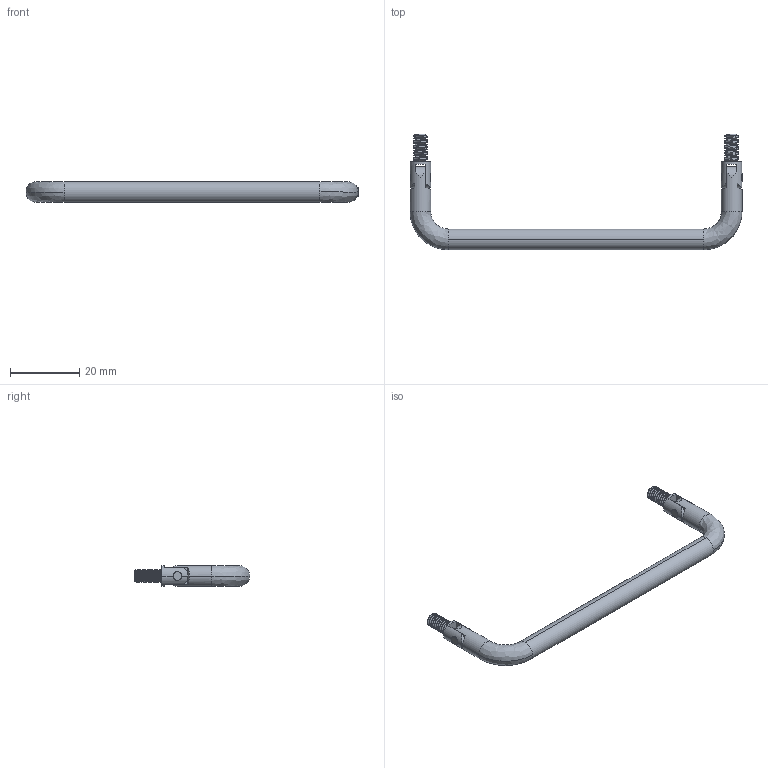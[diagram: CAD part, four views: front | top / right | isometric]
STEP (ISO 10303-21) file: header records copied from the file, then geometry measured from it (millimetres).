
FILE_DESCRIPTION (( 'STEP AP214' ), '1' );
FILE_NAME ('XG01-006.STEP', '2023-06-28T01:04:07', ( 'Windows 蚚誧' ), ( '' ), 'SwSTEP 2.0', 'SolidWorks 2019', '' );
FILE_SCHEMA (( 'AUTOMOTIVE_DESIGN' ));
Length unit declared in the file: millimetre
Products named in the file (3): XG01-006; SL508參忒_LS508-90; LS508參忒饜璃_LS508-8 4
Assembly tree (3 placements, depth 2):
  XG01-006
    SL508參忒_LS508-90
    LS508參忒饜璃_LS508-8 4  x2
Bounding box: 96 x 33.4 x 6 mm (x, y, z)
Volume: 3732 mm3; surface area: 3147 mm2
Topology: 3 solids, 3 shells, 120 faces, 332 edges, 220 vertices
Faces by surface type: cylinder 78, plane 24, bspline 12, cone 6
Entity records: 4352 total; most frequent: CARTESIAN_POINT 2525, ORIENTED_EDGE 410, DIRECTION 324, EDGE_CURVE 205, VERTEX_POINT 136, AXIS2_PLACEMENT_3D 127, EDGE_LOOP 83, FACE_OUTER_BOUND 76
